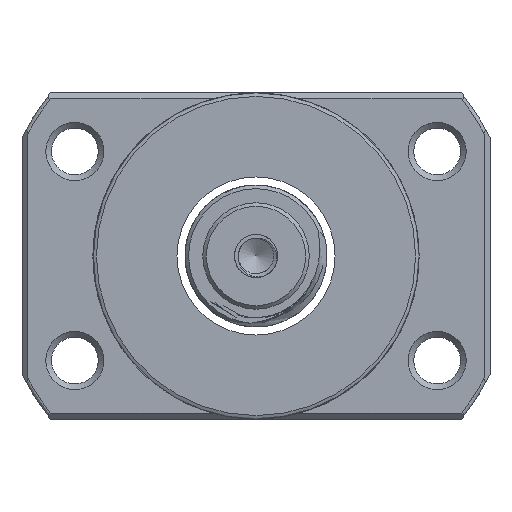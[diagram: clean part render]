
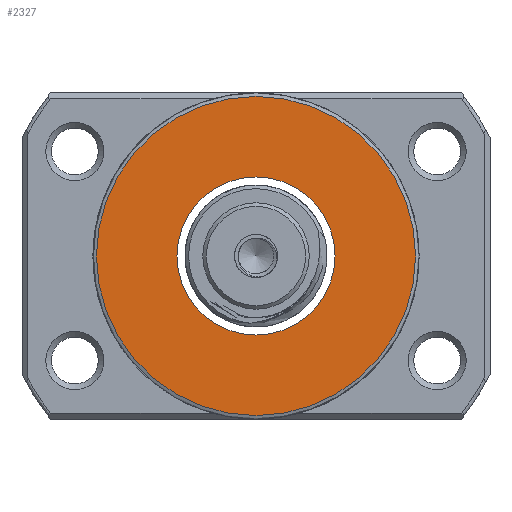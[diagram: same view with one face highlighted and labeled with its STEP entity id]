
A CAD part, left-side view. The second image highlights one B-rep face of the part: STEP entity #2327.
In plain terms, the highlighted planar face has unit normal (-1, 0, 0).
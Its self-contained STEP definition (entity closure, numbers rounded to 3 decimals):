
#648 = EDGE_CURVE ( 'NONE', #19701, #19701, #22068, .T. ) ;
#819 = CARTESIAN_POINT ( 'NONE',  ( -53.324, 0., 11.15 ) ) ;
#943 = CARTESIAN_POINT ( 'NONE',  ( -53.324, 0., 0. ) ) ;
#2327 = ADVANCED_FACE ( 'NONE', ( #15399, #19513 ), #3976, .T. ) ;
#2822 = EDGE_CURVE ( 'NONE', #9098, #9098, #10638, .T. ) ;
#3976 = PLANE ( 'NONE',  #20744 ) ;
#6172 = DIRECTION ( 'NONE',  ( -1., 0., 0. ) ) ;
#7418 = DIRECTION ( 'NONE',  ( -1., 0., 0. ) ) ;
#9098 = VERTEX_POINT ( 'NONE', #17513 ) ;
#9310 = AXIS2_PLACEMENT_3D ( 'NONE', #943, #7418, #24078 ) ;
#10638 = CIRCLE ( 'NONE', #19869, 22.5 ) ;
#15399 = FACE_OUTER_BOUND ( 'NONE', #25322, .T. ) ;
#15881 = ORIENTED_EDGE ( 'NONE', *, *, #648, .F. ) ;
#17513 = CARTESIAN_POINT ( 'NONE',  ( -53.324, 0., 22.5 ) ) ;
#18197 = DIRECTION ( 'NONE',  ( 0., 0., 1. ) ) ;
#18283 = ORIENTED_EDGE ( 'NONE', *, *, #2822, .T. ) ;
#18332 = DIRECTION ( 'NONE',  ( -1., 0., 0. ) ) ;
#19513 = FACE_BOUND ( 'NONE', #22565, .T. ) ;
#19701 = VERTEX_POINT ( 'NONE', #819 ) ;
#19869 = AXIS2_PLACEMENT_3D ( 'NONE', #25029, #6172, #18197 ) ;
#20744 = AXIS2_PLACEMENT_3D ( 'NONE', #22842, #18332, #26700 ) ;
#22068 = CIRCLE ( 'NONE', #9310, 11.15 ) ;
#22565 = EDGE_LOOP ( 'NONE', ( #15881 ) ) ;
#22842 = CARTESIAN_POINT ( 'NONE',  ( -53.324, 11.15, 0. ) ) ;
#24078 = DIRECTION ( 'NONE',  ( 0., 0., 1. ) ) ;
#25029 = CARTESIAN_POINT ( 'NONE',  ( -53.324, 0., 0. ) ) ;
#25322 = EDGE_LOOP ( 'NONE', ( #18283 ) ) ;
#26700 = DIRECTION ( 'NONE',  ( 0., 0., 1. ) ) ;
